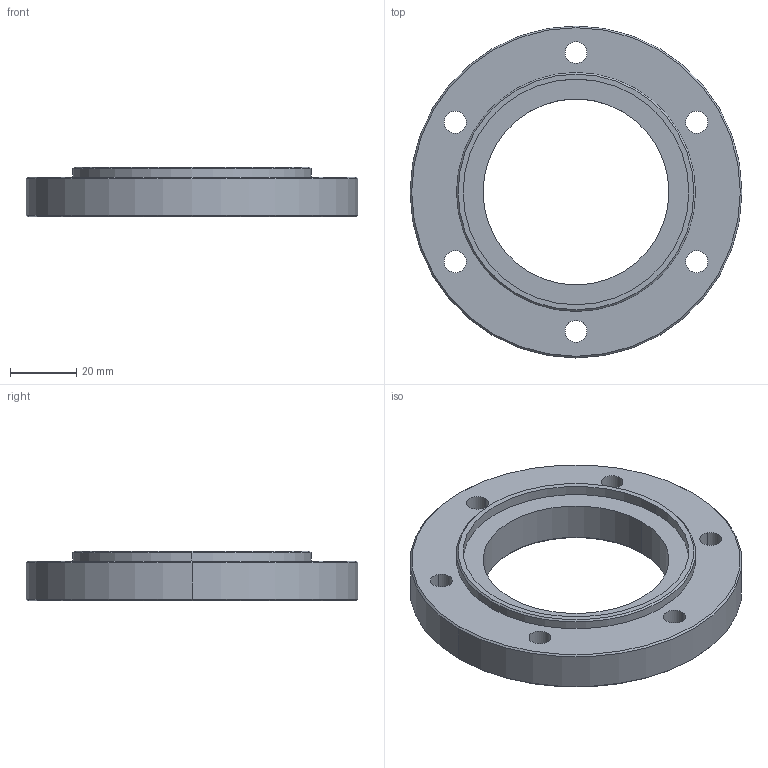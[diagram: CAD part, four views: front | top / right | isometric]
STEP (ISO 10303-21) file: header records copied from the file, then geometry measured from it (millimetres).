
FILE_DESCRIPTION (( 'STEP AP203' ), '1' );
FILE_NAME ('YWSD-2026-03-01-05=002 粣創傷裔III.STEP', '2026-07-24T07:39:44', ( 'Windows 蚚誧' ), ( '' ), 'SwSTEP 2.0', 'SolidWorks 2024', '' );
FILE_SCHEMA (( 'CONFIG_CONTROL_DESIGN' ));
Length unit declared in the file: millimetre
Products named in the file (1): YWSD-2026-03-01-05=002 轴承端盖III
Bounding box: 100 x 100 x 15 mm (x, y, z)
Volume: 61083.8 mm3; surface area: 19293.2 mm2
Topology: 1 solids, 1 shells, 50 faces, 112 edges, 72 vertices
Faces by surface type: cylinder 32, plane 10, cone 8
Entity records: 1529 total; most frequent: DIRECTION 286, CARTESIAN_POINT 235, ORIENTED_EDGE 224, AXIS2_PLACEMENT_3D 123, EDGE_CURVE 112, VERTEX_POINT 72, EDGE_LOOP 72, CIRCLE 72
